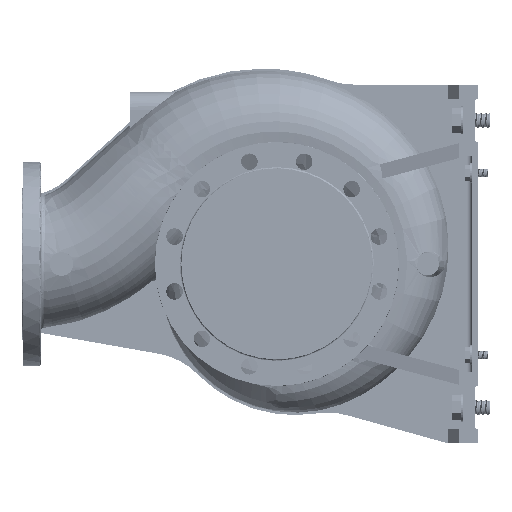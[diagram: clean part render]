
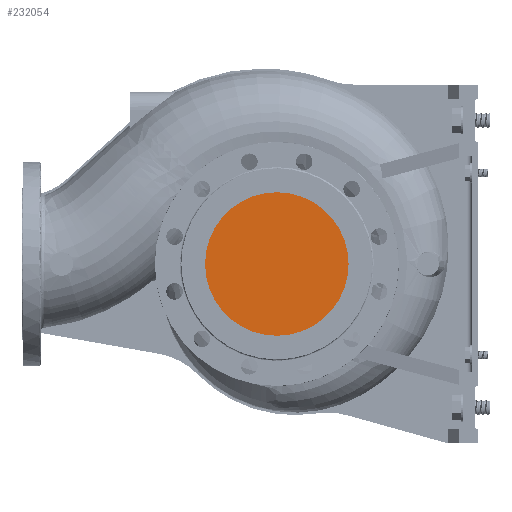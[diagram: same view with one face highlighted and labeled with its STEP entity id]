
A CAD part, left-side view. The second image highlights one B-rep face of the part: STEP entity #232054.
In plain terms, the highlighted planar face has unit normal (-1, 0, 0).
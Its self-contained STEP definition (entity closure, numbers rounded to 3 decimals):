
#1242 = DIRECTION ( 'NONE',  ( 1., 0., 0. ) ) ;
#30864 = EDGE_CURVE ( 'NONE', #171298, #170897, #150300, .T. ) ;
#36332 = CARTESIAN_POINT ( 'NONE',  ( -155., 0., -100. ) ) ;
#40103 = AXIS2_PLACEMENT_3D ( 'NONE', #98393, #1242, #79169 ) ;
#46543 = DIRECTION ( 'NONE',  ( 0., 0., -1. ) ) ;
#65723 = CARTESIAN_POINT ( 'NONE',  ( -155., 0., 0. ) ) ;
#74818 = FACE_OUTER_BOUND ( 'NONE', #198381, .T. ) ;
#79169 = DIRECTION ( 'NONE',  ( 0., 0., -1. ) ) ;
#94047 = DIRECTION ( 'NONE',  ( -1., 0., 0. ) ) ;
#98393 = CARTESIAN_POINT ( 'NONE',  ( -155., 0., 0. ) ) ;
#100197 = AXIS2_PLACEMENT_3D ( 'NONE', #65723, #199891, #46543 ) ;
#104550 = CARTESIAN_POINT ( 'NONE',  ( -155., 0., 100. ) ) ;
#150300 = CIRCLE ( 'NONE', #40103, 100. ) ;
#151528 = PLANE ( 'NONE',  #158791 ) ;
#155124 = EDGE_CURVE ( 'NONE', #170897, #171298, #210343, .T. ) ;
#158791 = AXIS2_PLACEMENT_3D ( 'NONE', #230607, #94047, #188547 ) ;
#170897 = VERTEX_POINT ( 'NONE', #36332 ) ;
#171298 = VERTEX_POINT ( 'NONE', #104550 ) ;
#188547 = DIRECTION ( 'NONE',  ( 0., -1., 0. ) ) ;
#198381 = EDGE_LOOP ( 'NONE', ( #213264, #213090 ) ) ;
#199891 = DIRECTION ( 'NONE',  ( 1., 0., 0. ) ) ;
#210343 = CIRCLE ( 'NONE', #100197, 100. ) ;
#213090 = ORIENTED_EDGE ( 'NONE', *, *, #30864, .F. ) ;
#213264 = ORIENTED_EDGE ( 'NONE', *, *, #155124, .F. ) ;
#230607 = CARTESIAN_POINT ( 'NONE',  ( -155., 101.2, -101.2 ) ) ;
#232054 = ADVANCED_FACE ( 'NONE', ( #74818 ), #151528, .T. ) ;
